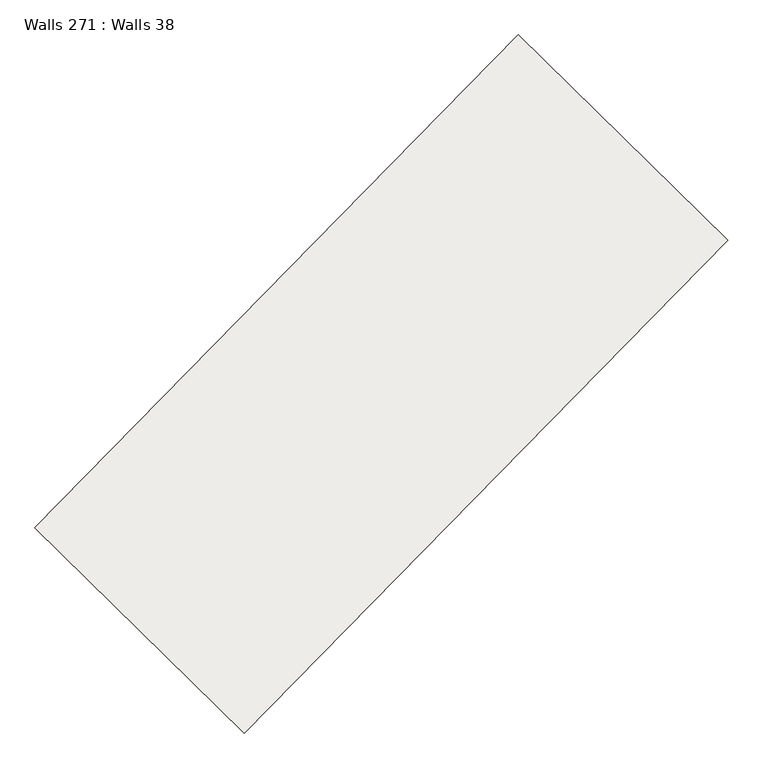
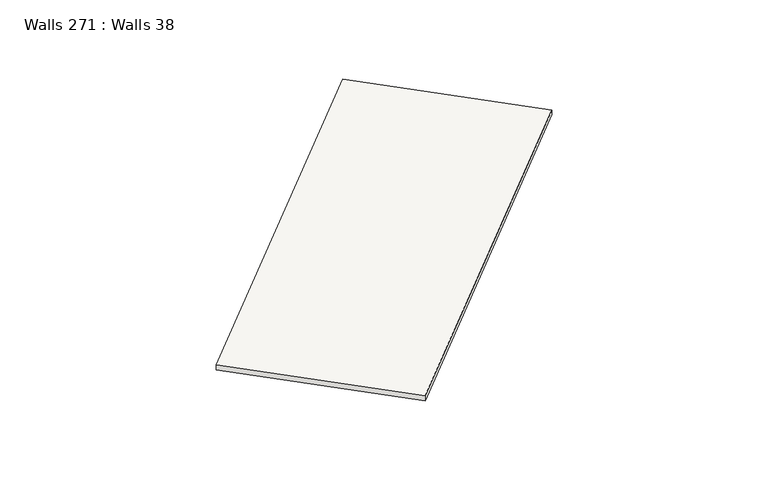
"""IFC4 building model written with IfcOpenShell, lengths in millimetres: slab geometry, Walls 271 : Walls 38."""

import ifcopenshell
import ifcopenshell.guid

model = None  # the IFC model being written
_history = None  # IfcOwnerHistory: only IFC2X3 demands one
_inside = {}  # id of a spatial element -> (the spatial element, [elements in it])
_under = {}  # id of a project, library or spatial element -> (it, [spatial elements below it])
_declared = {}  # id of a project -> (the project, [libraries it declares])
_typed = {}  # id of a type object -> (the type object, [elements of that type])
_made_of = {}  # id of a material, layer set ... -> (it, [elements and type objects made of it])


def new_model(schema):
    """Start an empty IFC model of exactly this schema.

    Asked for "IFC4X3", IfcOpenShell would pick the latest addendum, in which some entities
    have other attributes; the version numbers below select the first issue.
    IFC2X3 requires an IfcOwnerHistory on every rooted entity: one is made here for all.
    """
    global model, _history
    if schema == "IFC4X3":
        model = ifcopenshell.file(schema_version=(4, 3, 0, 0))
    else:
        model = ifcopenshell.file(schema=schema)
    _inside.clear()
    _under.clear()
    _declared.clear()
    _typed.clear()
    _made_of.clear()
    _history = None
    if model.schema == "IFC2X3":
        org = make("IfcOrganization", Name="unknown")
        user = make(
            "IfcPersonAndOrganization",
            ThePerson=make("IfcPerson", FamilyName="unknown"),
            TheOrganization=org,
        )
        app = make(
            "IfcApplication",
            ApplicationDeveloper=org,
            Version="unknown",
            ApplicationFullName="unknown",
            ApplicationIdentifier="unknown",
        )
        _history = make(
            "IfcOwnerHistory",
            OwningUser=user,
            OwningApplication=app,
            ChangeAction="ADDED",
            CreationDate=0,
        )
    return model


def make(cls, **values):
    """One entity of the class cls with the attributes given. An attribute that is None is left unset."""
    return model.create_entity(
        cls, **{name: value for name, value in values.items() if value is not None}
    )


def rooted(cls, **values):
    """An entity with a GlobalId (a new one), such as an element, a storey or a relation."""
    return make(cls, GlobalId=ifcopenshell.guid.new(), OwnerHistory=_history, **values)


def si_unit(unit_type, name, prefix=None):
    """IfcSIUnit, for example si_unit("LENGTHUNIT", "METRE", prefix="MILLI")."""
    return make("IfcSIUnit", UnitType=unit_type, Prefix=prefix, Name=name)


def assignment(units):
    """IfcUnitAssignment: the units of a project."""
    return None if units is None else make("IfcUnitAssignment", Units=units)


def point(xyz):
    """IfcCartesianPoint."""
    return None if xyz is None else make("IfcCartesianPoint", Coordinates=xyz)


def direction(xyz):
    """IfcDirection."""
    return None if xyz is None else make("IfcDirection", DirectionRatios=xyz)


def frame(location, z_axis=None, x_axis=None):
    """IfcAxis2Placement3D, a coordinate frame: its origin and axes. An axis left out is left unset."""
    return make(
        "IfcAxis2Placement3D",
        Location=point(location),
        Axis=direction(z_axis),
        RefDirection=direction(x_axis),
    )


def origin():
    """The frame at (0, 0, 0) with its axes left unset."""
    return frame((0.0, 0.0, 0.0))


def place(relative_to, where):
    """IfcLocalPlacement: puts the frame where relative to a parent placement (None: the world)."""
    return make(
        "IfcLocalPlacement", PlacementRelTo=relative_to, RelativePlacement=where
    )


def context(
    kind, dimensions, precision=None, world=None, true_north=None, identifier=None
):
    """IfcGeometricRepresentationContext, for example the 3D "Model" context."""
    return make(
        "IfcGeometricRepresentationContext",
        ContextIdentifier=identifier,
        ContextType=kind,
        CoordinateSpaceDimension=dimensions,
        Precision=precision,
        WorldCoordinateSystem=world,
        TrueNorth=true_north,
    )


def project(units=None, contexts=None):
    """IfcProject with its units and contexts."""
    return rooted(
        "IfcProject",
        Name="project",
        RepresentationContexts=contexts,
        UnitsInContext=assignment(units),
    )


def spatial(cls, under=None, at=None, **own):
    """A site, building, storey or space (cls), placed at a placement, below another one or the project."""
    s = rooted(cls, ObjectPlacement=at, **own)
    if under is not None:
        _under.setdefault(under.id(), (under, []))[1].append(s)
    return s


def polyline(points):
    """IfcPolyline through the points."""
    return make("IfcPolyline", Points=[point(p) for p in points])


def outline(outer, holes=None, kind="AREA"):
    """IfcArbitraryClosedProfileDef: a profile drawn as a closed curve; with holes, ...WithVoids."""
    if holes is None:
        return make("IfcArbitraryClosedProfileDef", ProfileType=kind, OuterCurve=outer)
    return make(
        "IfcArbitraryProfileDefWithVoids",
        ProfileType=kind,
        OuterCurve=outer,
        InnerCurves=holes,
    )


def extrude(swept, where, along, depth):
    """IfcExtrudedAreaSolid: the profile swept, set in the frame where, extruded along a direction by depth."""
    return make(
        "IfcExtrudedAreaSolid",
        SweptArea=swept,
        Position=where,
        ExtrudedDirection=direction(along),
        Depth=depth,
    )


def shape(context_of_items, identifier, shape_type, items):
    """IfcShapeRepresentation: the items that make up one representation, for example the "Body"."""
    return make(
        "IfcShapeRepresentation",
        ContextOfItems=context_of_items,
        RepresentationIdentifier=identifier,
        RepresentationType=shape_type,
        Items=items,
    )


def source(mapping_origin, context_of_items, identifier, shape_type, items):
    """IfcRepresentationMap: a shape defined once, which mapped items show again and again."""
    return make(
        "IfcRepresentationMap",
        MappingOrigin=mapping_origin,
        MappedRepresentation=shape(context_of_items, identifier, shape_type, items),
    )


def transform(
    local_origin,
    x_axis=None,
    y_axis=None,
    z_axis=None,
    scale=None,
    scale2=None,
    scale3=None,
    uniform=True,
):
    """IfcCartesianTransformationOperator3D, or its non-uniform kind. x_axis, y_axis, z_axis: its Axis1, 2, 3."""
    if uniform:
        return make(
            "IfcCartesianTransformationOperator3D",
            Axis1=direction(x_axis),
            Axis2=direction(y_axis),
            LocalOrigin=point(local_origin),
            Scale=scale,
            Axis3=direction(z_axis),
        )
    return make(
        "IfcCartesianTransformationOperator3DnonUniform",
        Axis1=direction(x_axis),
        Axis2=direction(y_axis),
        LocalOrigin=point(local_origin),
        Scale=scale,
        Axis3=direction(z_axis),
        Scale2=scale2,
        Scale3=scale3,
    )


def mapped(mapping_source, mapping_target):
    """IfcMappedItem: shows the shape of a source again, moved by a transform."""
    return make(
        "IfcMappedItem", MappingSource=mapping_source, MappingTarget=mapping_target
    )


def made_of(thing, what):
    """Note that an element or type object is made of a material, layer set ...; save() writes the relation."""
    if what is not None:
        _made_of.setdefault(what.id(), (what, []))[1].append(thing)
    return thing


def element(
    cls,
    number,
    at=None,
    inside=None,
    cuts=None,
    type_object=None,
    material=None,
    context=None,
    identifier="Body",
    shape_type=None,
    held_by="IfcProductDefinitionShape",
    body=None,
    shapes=None,
    **own,
):
    """One element of the class cls, such as IfcWall. Its Tag is "e" and its number.

    at: its placement. inside: the storey or other place that contains it. cuts: it is an
    opening in that element (IfcRelVoidsElement). A single representation is given by context,
    identifier, shape_type and body (its items); several are given by shapes. held_by: the class
    of the entity that holds the representations. save() writes the other relations.
    """
    e = rooted(cls, Tag="e%d" % number, ObjectPlacement=at, **own)
    if body is not None:
        shapes = [shape(context, identifier, shape_type, body)]
    if shapes is not None:
        e.Representation = make(held_by, Representations=shapes)
    if inside is not None:
        _inside.setdefault(inside.id(), (inside, []))[1].append(e)
    if cuts is not None:
        rooted(
            "IfcRelVoidsElement", RelatingBuildingElement=cuts, RelatedOpeningElement=e
        )
    if type_object is not None:
        _typed.setdefault(type_object.id(), (type_object, []))[1].append(e)
    return made_of(e, material)


def aggregate(whole, parts):
    """IfcRelAggregates: a whole, such as a stair, and the parts it consists of."""
    return rooted("IfcRelAggregates", RelatingObject=whole, RelatedObjects=parts)


def save(model, path):
    """Write the relations noted so far, then the file.

    IfcRelAggregates (storeys below a building ...), IfcRelContainedInSpatialStructure (elements
    in a storey), IfcRelDefinesByType, IfcRelAssociatesMaterial and IfcRelDeclares: one each for
    every whole, place, type object, material and project.
    """
    for whole, parts in _under.values():
        aggregate(whole, parts)
    for where, things in _inside.values():
        rooted(
            "IfcRelContainedInSpatialStructure",
            RelatedElements=things,
            RelatingStructure=where,
        )
    for kind, things in _typed.values():
        rooted("IfcRelDefinesByType", RelatedObjects=things, RelatingType=kind)
    for what, things in _made_of.values():
        rooted("IfcRelAssociatesMaterial", RelatedObjects=things, RelatingMaterial=what)
    for by, libraries in _declared.values():
        rooted("IfcRelDeclares", RelatingContext=by, RelatedDefinitions=libraries)
    model.write(path)


def walls_271_walls_38_80777535(model_context):
    return source(origin(), model_context, "Body", "SweptSolid", [
        extrude(outline(polyline([(-50.0, 0.0), (50.0, 0.0), (-40.0, -8699.9999995), (-140.0, -8699.9999995), (-50.0, 0.0)])), frame((-152290.3140403, -314531.8300642, 635830.0), z_axis=(-0.7137361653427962, 0.7004146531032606, 0.0), x_axis=(0.0, 0.0, 1.0)), (0.0, 0.0, 1.0), 3699.999995),
    ])


if __name__ == "__main__":
    model = new_model("IFC4")
    model_context = context("Model", 3, world=origin())
    ifc_project = project(units=[si_unit("LENGTHUNIT", "METRE", prefix="MILLI")], contexts=[model_context])
    site = spatial("IfcSite", under=ifc_project)
    building = spatial("IfcBuilding", under=site)
    placement = place(None, origin())
    walls_271_walls_38_shape = walls_271_walls_38_80777535(model_context)
    element("IfcSlab", 1, ObjectType="Walls 271 : Walls 38", at=placement, inside=building, context=model_context, shape_type="MappedRepresentation", body=[
        mapped(walls_271_walls_38_shape, transform((0.0, 0.0, 0.0), x_axis=(1.0, 0.0, 0.0), y_axis=(0.0, 1.0, 0.0), z_axis=(0.0, 0.0, 1.0))),
    ])
    save(model, "model.ifc")
